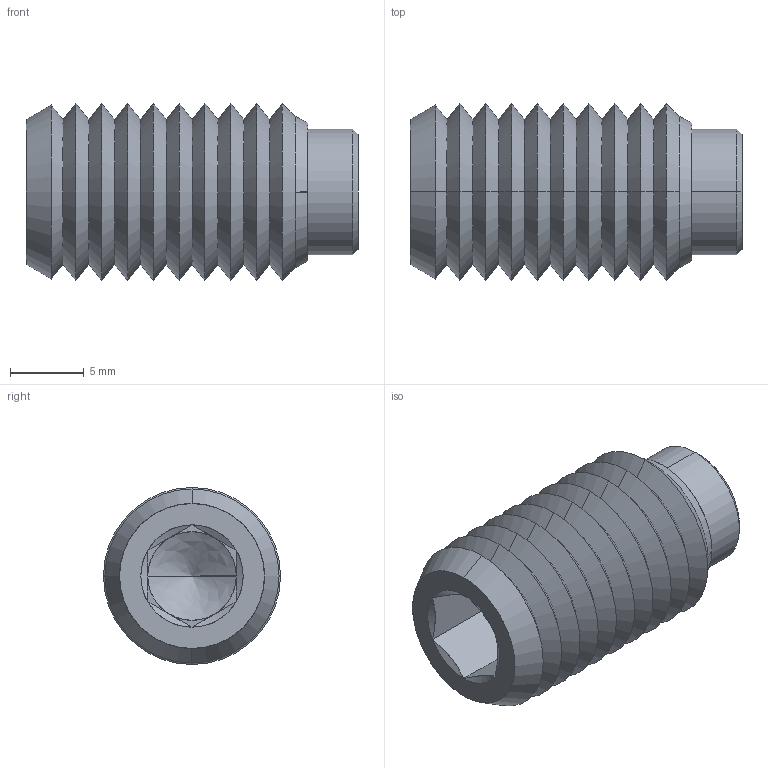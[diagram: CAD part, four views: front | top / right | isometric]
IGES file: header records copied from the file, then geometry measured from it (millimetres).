
Start section: SolidWorks IGES file using analytic representation for surfaces
Global section: file name: C:\Users\IanO\Desktop\P0120_v2_230406\P0120_v2_20230506_IGES\P0120.120-022.igs; native system: SolidWorks 2019; preprocessor: SolidWorks 2019; author: IanO; date: 230406.142556; units: millimetre
Bounding box: 22.5 x 12 x 12 mm (x, y, z)
Surface area: 1649.5 mm2 (no closed solid volume)
Topology: 0 solids, 0 shells, 73 faces, 550 edges, 548 vertices
Faces by surface type: revolution 56, bspline 17
